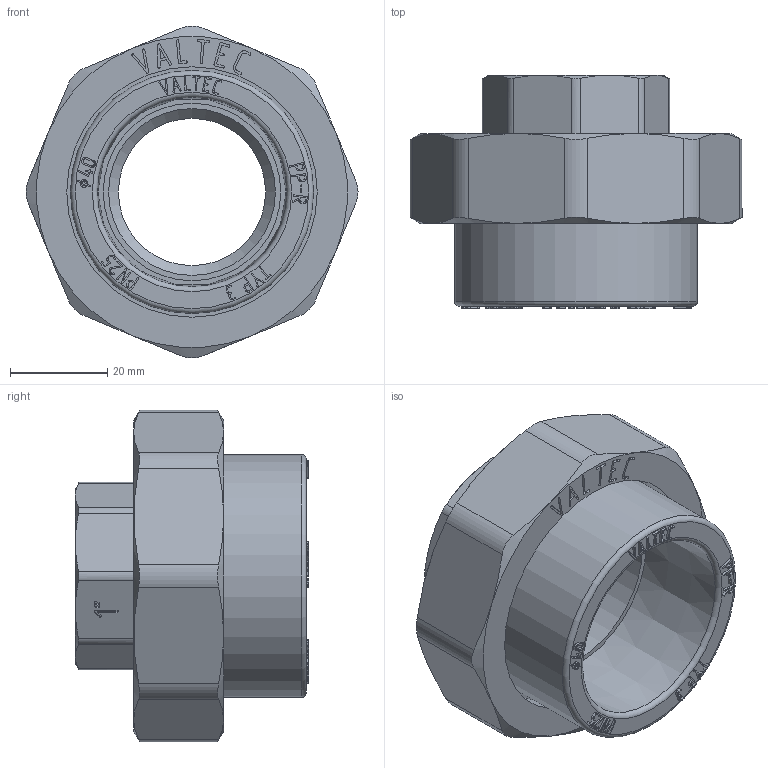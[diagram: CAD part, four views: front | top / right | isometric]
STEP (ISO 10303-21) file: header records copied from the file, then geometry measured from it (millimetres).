
FILE_DESCRIPTION(('STEP AP203'), '1');
FILE_NAME('VTp.762.0.04006', '2026-07-17T12:09:10', ('VerevichevVA'), ('Vesta'), 'C3D Converter', 'C3D Toolkit', '');
FILE_SCHEMA(('CONFIG_CONTROL_DESIGN'));
Length unit declared in the file: millimetre
Products named in the file (1): ВР.302634.119.000 СБ
Bounding box: 68.28 x 48 x 68.28 mm (x, y, z)
Volume: 59295 mm3; surface area: 20038.2 mm2
Topology: 1 solids, 1 shells, 794 faces, 2197 edges, 1456 vertices
Faces by surface type: extrusion 432, plane 313, cone 25, cylinder 21, torus 3
Full cylindrical faces by diameter (mm): 30.292 x1, 36.5 x1, 39.2 x1, 50 x1, 51.5 x1
Entity records: 27333 total; most frequent: CARTESIAN_POINT 9010, ORIENTED_EDGE 4338, DIRECTION 2427, EDGE_CURVE 2169, VECTOR 1635, VERTEX_POINT 1448, B_SPLINE_CURVE_WITH_KNOTS 1357, LINE 1203
